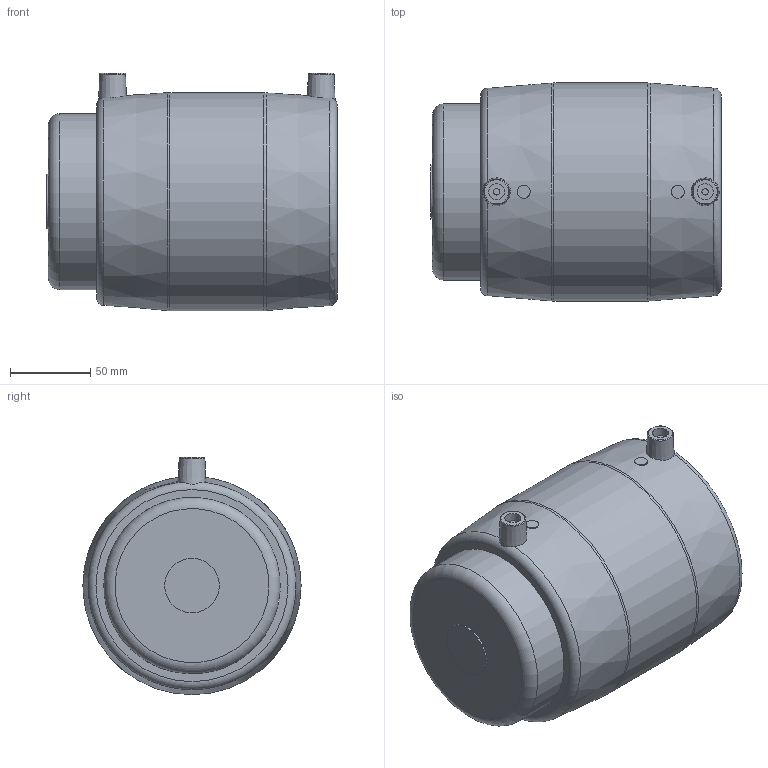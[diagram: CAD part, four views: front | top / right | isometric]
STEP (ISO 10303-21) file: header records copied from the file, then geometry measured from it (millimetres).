
FILE_DESCRIPTION(/* description */ ('Unknown'),/* implementation_level */ '2;1');
FILE_NAME(/* name */ 'CAEP110C',/* time_stamp */ '2021-02-11T10:20:19+01:00',/* author */ ('Unknown'),/* organization */ ('Unknown'),/* preprocessor_version */ 'ST-DEVELOPER v16.7',/* originating_system */ 'Solid Edge',/* authorisation */ 'Unknown');
FILE_SCHEMA (('AUTOMOTIVE_DESIGN {1 0 10303 214 3 1 1}'));
Length unit declared in the file: millimetre
Products named in the file (3): CAEP110C; MP110C; CAP110C
Assembly tree (2 placements, depth 2):
  CAEP110C
    MP110C
    CAP110C
Bounding box: 181 x 136 x 148 mm (x, y, z)
Volume: 1106156.8 mm3; surface area: 201578 mm2
Topology: 2 solids, 2 shells, 52 faces, 115 edges, 76 vertices
Faces by surface type: plane 24, cylinder 15, torus 8, cone 5
Full cylindrical faces by diameter (mm): 4 x2, 8 x2, 10 x2, 34 x1, 90 x1, 110 x2, 136 x1
Entity records: 1311 total; most frequent: CARTESIAN_POINT 247, DIRECTION 224, ORIENTED_EDGE 150, AXIS2_PLACEMENT_3D 100, EDGE_LOOP 88, FACE_BOUND 88, EDGE_CURVE 75, VERTEX_POINT 61
